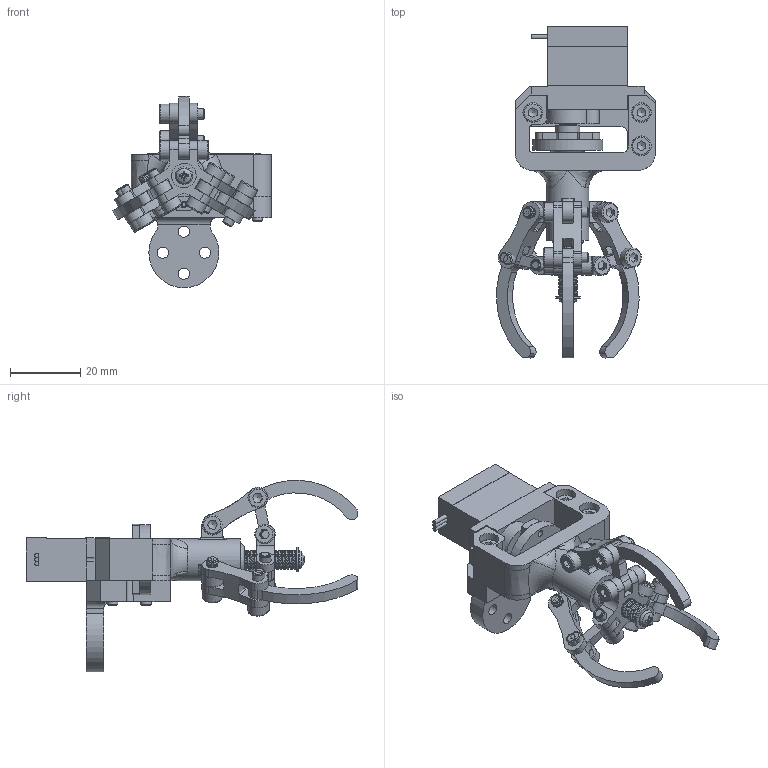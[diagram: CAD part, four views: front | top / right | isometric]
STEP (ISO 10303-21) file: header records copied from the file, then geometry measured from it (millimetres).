
FILE_DESCRIPTION(/* description */ (''),/* implementation_level */ '2;1');
FILE_NAME(/* name */ 'Assieme_mini_pinza_vite.stp',/* time_stamp */ '2026-05-19T13:41:57+02:00',/* author */ ('Ryzen5700u'),/* organization */ (''),/* preprocessor_version */ 'ST-DEVELOPER v20',/* originating_system */ 'Autodesk Inventor 2025',/* authorisation */ '');
FILE_SCHEMA (('AUTOMOTIVE_DESIGN { 1 0 10303 214 3 1 1 }'));
Products named in the file (14): Assieme_mini_pinza_vite; Parte1; vite; vite3; dado; Parte4; Parte2; AS 1420 - 1973 - M3 x 10; AS 1427 - M2,5 x 5; rondella; MG90_ldb_v2; RCXAZ_9g doppio; braccio_pinza2; AS 1420 - 1973 - M3 x 14
Assembly tree (31 placements, depth 2):
  Assieme_mini_pinza_vite
    Parte1
    AS 1420 - 1973 - M3 x 10  x13
    vite
    vite3
    dado
    Parte4  x3
    Parte2  x3
    AS 1427 - M2,5 x 5
    rondella
    MG90_ldb_v2
    RCXAZ_9g doppio
    braccio_pinza2
    AS 1420 - 1973 - M3 x 14  x3
Bounding box: 45.35 x 94.76 x 54.59 mm (x, y, z)
Volume: 26247.3 mm3; surface area: 22128.7 mm2
Topology: 31 solids, 33 shells, 1026 faces, 2775 edges, 1852 vertices
Faces by surface type: plane 551, cylinder 348, torus 58, cone 55, bspline 13, sphere 1
Full cylindrical faces by diameter (mm): 1.167 x3, 1.2 x6, 1.8 x6, 2.2 x2, 2.224 x1, 2.5 x2, 3 x17, 3.2 x31, 3.4 x6, 3.5 x1, 4.744 x14, 4.75 x1, 5 x2, 5.3 x4, 5.5 x32, 5.6 x3, 6.147 x4, 6.8 x1, 7 x1, 9 x1, 9.2 x1, 12 x1, 20 x1
Entity records: 40792 total; most frequent: CARTESIAN_POINT 21357, ORIENTED_EDGE 4006, DIRECTION 3762, EDGE_CURVE 2003, VERTEX_POINT 1339, AXIS2_PLACEMENT_3D 1266, LINE 1230, VECTOR 1230
